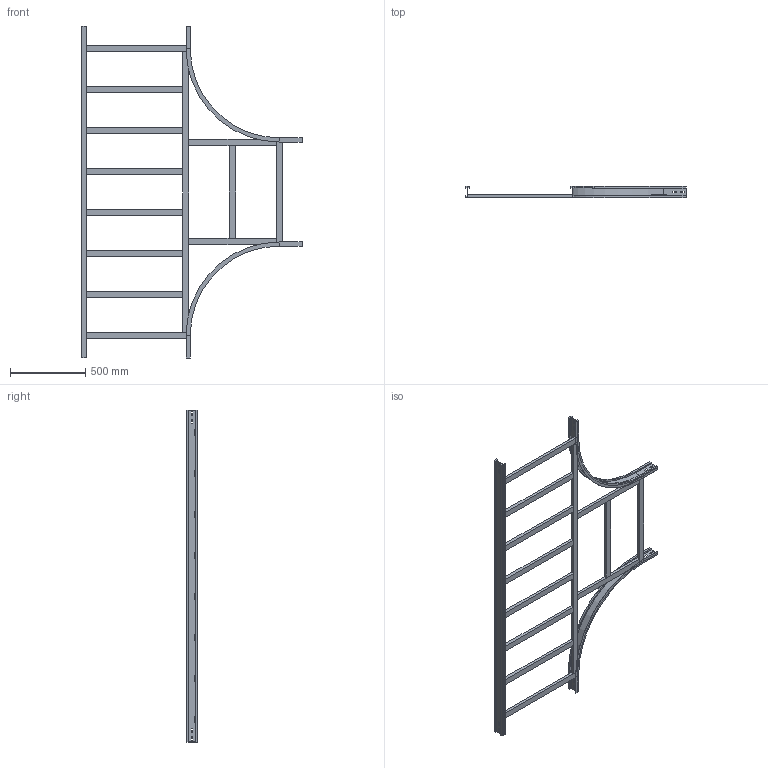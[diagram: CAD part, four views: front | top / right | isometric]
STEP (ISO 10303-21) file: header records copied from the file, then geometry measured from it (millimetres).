
FILE_DESCRIPTION (( 'STEP AP214' ), '1' );
FILE_NAME ('15S6C700.step', '2025-02-21T16:15:34', ( '' ), ( '' ), 'SwSTEP 2.0', 'SolidWorks 2023', '' );
FILE_SCHEMA (( 'AUTOMOTIVE_DESIGN' ));
Length unit declared in the file: millimetre
Products named in the file (8): TRAVERSINO_LONG._R600+700; LONGH.INTERNO 90°_H75_R600; LONGH.RETT_H75_R600+700; TRAVERSINO_INTERMEDIO_R600+700; TRAVERSINO_700; 15S6C700; TRAVERSINO_VERT_R600; TRAVERSINO_COPPIA_700
Assembly tree (16 placements, depth 2):
  15S6C700
    LONGH.INTERNO 90°_H75_R600  x2
    LONGH.RETT_H75_R600+700
    TRAVERSINO_700  x3
    TRAVERSINO_LONG._R600+700
    TRAVERSINO_INTERMEDIO_R600+700  x6
    TRAVERSINO_VERT_R600  x2
    TRAVERSINO_COPPIA_700
Bounding box: 1459 x 75 x 2200 mm (x, y, z)
Volume: 10136741.8 mm3; surface area: 2348192.4 mm2
Topology: 16 solids, 16 shells, 216 faces, 504 edges, 320 vertices
Faces by surface type: plane 204, cylinder 12
Entity records: 3597 total; most frequent: CARTESIAN_POINT 585, DIRECTION 554, ORIENTED_EDGE 552, EDGE_CURVE 276, VECTOR 264, LINE 264, VERTEX_POINT 176, AXIS2_PLACEMENT_3D 145
